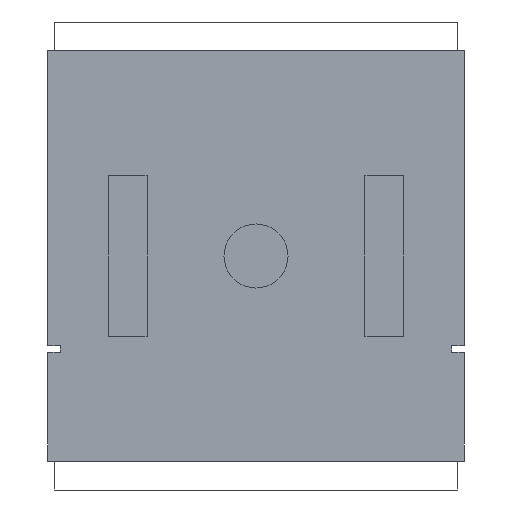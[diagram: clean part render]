
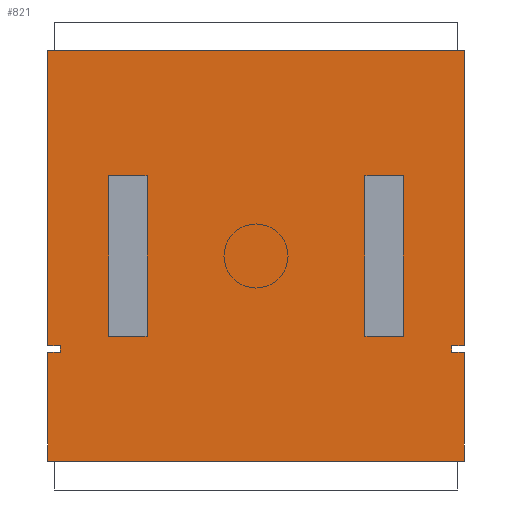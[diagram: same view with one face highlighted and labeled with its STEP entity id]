
A CAD part, left-side view. The second image highlights one B-rep face of the part: STEP entity #821.
In plain terms, the highlighted planar face has unit normal (-1, 0, 0).
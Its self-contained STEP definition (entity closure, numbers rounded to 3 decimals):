
#61=FACE_OUTER_BOUND('',#109,.T.);
#109=EDGE_LOOP('',(#614,#615,#616,#617,#618,#619,#620,#621,#622,#623,#624,
#625));
#144=LINE('',#1152,#254);
#148=LINE('',#1160,#258);
#151=LINE('',#1166,#261);
#154=LINE('',#1173,#264);
#158=LINE('',#1181,#268);
#161=LINE('',#1187,#271);
#164=LINE('',#1193,#274);
#173=LINE('',#1209,#283);
#174=LINE('',#1212,#284);
#176=LINE('',#1215,#286);
#178=LINE('',#1219,#288);
#179=LINE('',#1221,#289);
#254=VECTOR('',#936,10.);
#258=VECTOR('',#942,10.);
#261=VECTOR('',#947,10.);
#264=VECTOR('',#952,10.);
#268=VECTOR('',#958,10.);
#271=VECTOR('',#963,10.);
#274=VECTOR('',#968,10.);
#283=VECTOR('',#981,10.);
#284=VECTOR('',#984,10.);
#286=VECTOR('',#988,10.);
#288=VECTOR('',#992,10.);
#289=VECTOR('',#995,10.);
#364=VERTEX_POINT('',#1150);
#365=VERTEX_POINT('',#1151);
#368=VERTEX_POINT('',#1159);
#370=VERTEX_POINT('',#1165);
#372=VERTEX_POINT('',#1171);
#373=VERTEX_POINT('',#1172);
#376=VERTEX_POINT('',#1180);
#378=VERTEX_POINT('',#1186);
#380=VERTEX_POINT('',#1192);
#385=VERTEX_POINT('',#1207);
#386=VERTEX_POINT('',#1211);
#387=VERTEX_POINT('',#1217);
#440=EDGE_CURVE('',#364,#365,#144,.T.);
#444=EDGE_CURVE('',#368,#364,#148,.T.);
#447=EDGE_CURVE('',#365,#370,#151,.T.);
#450=EDGE_CURVE('',#372,#373,#154,.T.);
#454=EDGE_CURVE('',#376,#372,#158,.T.);
#457=EDGE_CURVE('',#378,#376,#161,.T.);
#460=EDGE_CURVE('',#380,#368,#164,.T.);
#469=EDGE_CURVE('',#373,#385,#173,.T.);
#470=EDGE_CURVE('',#386,#378,#174,.T.);
#472=EDGE_CURVE('',#385,#380,#176,.T.);
#474=EDGE_CURVE('',#370,#387,#178,.T.);
#475=EDGE_CURVE('',#387,#386,#179,.T.);
#614=ORIENTED_EDGE('',*,*,#447,.T.);
#615=ORIENTED_EDGE('',*,*,#474,.T.);
#616=ORIENTED_EDGE('',*,*,#475,.T.);
#617=ORIENTED_EDGE('',*,*,#470,.T.);
#618=ORIENTED_EDGE('',*,*,#457,.T.);
#619=ORIENTED_EDGE('',*,*,#454,.T.);
#620=ORIENTED_EDGE('',*,*,#450,.T.);
#621=ORIENTED_EDGE('',*,*,#469,.T.);
#622=ORIENTED_EDGE('',*,*,#472,.T.);
#623=ORIENTED_EDGE('',*,*,#460,.T.);
#624=ORIENTED_EDGE('',*,*,#444,.T.);
#625=ORIENTED_EDGE('',*,*,#440,.T.);
#775=PLANE('',#893);
#821=ADVANCED_FACE('',(#61),#775,.F.);
#893=AXIS2_PLACEMENT_3D('',#1222,#996,#997);
#936=DIRECTION('',(0.,0.,1.));
#942=DIRECTION('',(0.,1.,0.));
#947=DIRECTION('',(0.,-1.,0.));
#952=DIRECTION('',(0.,1.,0.));
#958=DIRECTION('',(0.,0.,-1.));
#963=DIRECTION('',(0.,-1.,0.));
#968=DIRECTION('',(0.,0.,1.));
#981=DIRECTION('',(0.,0.,-1.));
#984=DIRECTION('',(0.,0.,-1.));
#988=DIRECTION('',(0.,-1.,0.));
#992=DIRECTION('',(0.,0.,1.));
#995=DIRECTION('',(0.,1.,0.));
#996=DIRECTION('center_axis',(1.,0.,0.));
#997=DIRECTION('ref_axis',(0.,0.,-1.));
#1150=CARTESIAN_POINT('',(0.,-30.5,-15.));
#1151=CARTESIAN_POINT('',(0.,-30.5,-14.));
#1152=CARTESIAN_POINT('',(0.,-30.5,-7.5));
#1159=CARTESIAN_POINT('',(0.,-32.5,-15.));
#1160=CARTESIAN_POINT('',(0.,-16.25,-15.));
#1165=CARTESIAN_POINT('',(0.,-32.5,-14.));
#1166=CARTESIAN_POINT('',(0.,-15.25,-14.));
#1171=CARTESIAN_POINT('',(0.,30.5,-15.));
#1172=CARTESIAN_POINT('',(0.,32.5,-15.));
#1173=CARTESIAN_POINT('',(0.,15.25,-15.));
#1180=CARTESIAN_POINT('',(0.,30.5,-14.));
#1181=CARTESIAN_POINT('',(0.,30.5,-7.));
#1186=CARTESIAN_POINT('',(0.,32.5,-14.));
#1187=CARTESIAN_POINT('',(0.,16.25,-14.));
#1192=CARTESIAN_POINT('',(0.,-32.5,-32.));
#1193=CARTESIAN_POINT('',(0.,-32.5,-32.));
#1207=CARTESIAN_POINT('',(0.,32.5,-32.));
#1209=CARTESIAN_POINT('',(0.,32.5,32.));
#1211=CARTESIAN_POINT('',(0.,32.5,32.));
#1212=CARTESIAN_POINT('',(0.,32.5,32.));
#1215=CARTESIAN_POINT('',(0.,32.5,-32.));
#1217=CARTESIAN_POINT('',(0.,-32.5,32.));
#1219=CARTESIAN_POINT('',(0.,-32.5,-32.));
#1221=CARTESIAN_POINT('',(0.,-32.5,32.));
#1222=CARTESIAN_POINT('Origin',(0.,0.,0.));
